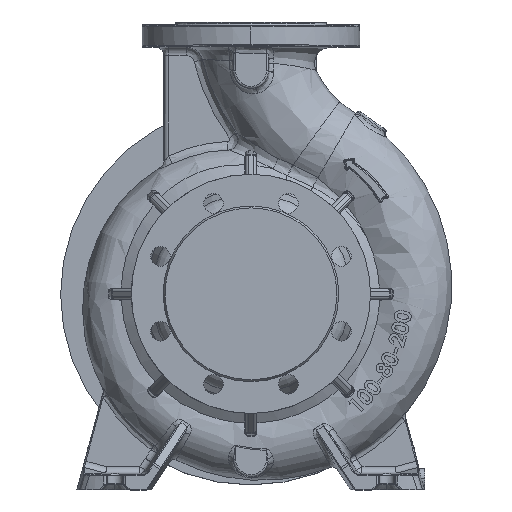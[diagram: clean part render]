
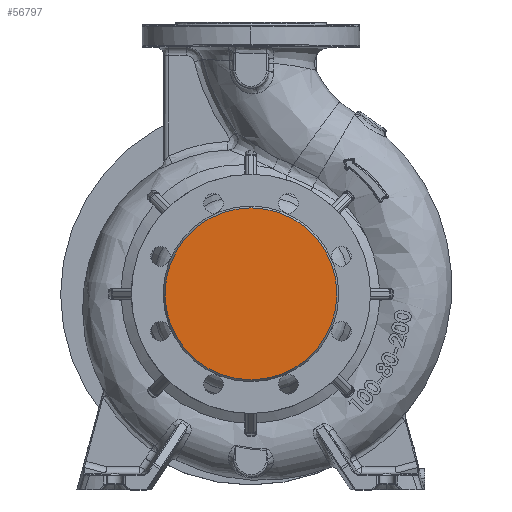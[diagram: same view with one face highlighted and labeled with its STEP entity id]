
A CAD part, top view. The second image highlights one B-rep face of the part: STEP entity #56797.
In plain terms, the highlighted planar face has unit normal (0, 0, 1).
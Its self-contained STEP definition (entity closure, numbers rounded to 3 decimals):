
#4521 = AXIS2_PLACEMENT_3D ( 'NONE', #106833, #72144, #106077 ) ;
#4668 = CARTESIAN_POINT ( 'NONE',  ( 79., 0., 125. ) ) ;
#10118 = DIRECTION ( 'NONE',  ( 0., 0., -1. ) ) ;
#10796 = DIRECTION ( 'NONE',  ( -1., 0., 0. ) ) ;
#20364 = CIRCLE ( 'NONE', #107687, 79. ) ;
#23458 = EDGE_LOOP ( 'NONE', ( #74007, #46989 ) ) ;
#27886 = AXIS2_PLACEMENT_3D ( 'NONE', #107069, #71596, #10796 ) ;
#28030 = CARTESIAN_POINT ( 'NONE',  ( 0., 0., 125. ) ) ;
#33803 = FACE_OUTER_BOUND ( 'NONE', #23458, .T. ) ;
#40286 = EDGE_CURVE ( 'NONE', #63747, #61047, #99404, .T. ) ;
#46989 = ORIENTED_EDGE ( 'NONE', *, *, #83875, .F. ) ;
#56797 = ADVANCED_FACE ( 'NONE', ( #33803 ), #72526, .F. ) ;
#61047 = VERTEX_POINT ( 'NONE', #4668 ) ;
#63747 = VERTEX_POINT ( 'NONE', #76156 ) ;
#71596 = DIRECTION ( 'NONE',  ( 0., 0., -1. ) ) ;
#72144 = DIRECTION ( 'NONE',  ( 0., 0., -1. ) ) ;
#72526 = PLANE ( 'NONE',  #4521 ) ;
#74007 = ORIENTED_EDGE ( 'NONE', *, *, #40286, .F. ) ;
#76156 = CARTESIAN_POINT ( 'NONE',  ( -79., 0., 125. ) ) ;
#83875 = EDGE_CURVE ( 'NONE', #61047, #63747, #20364, .T. ) ;
#96885 = DIRECTION ( 'NONE',  ( -1., 0., 0. ) ) ;
#99404 = CIRCLE ( 'NONE', #27886, 79. ) ;
#106077 = DIRECTION ( 'NONE',  ( -1., 0., 0. ) ) ;
#106833 = CARTESIAN_POINT ( 'NONE',  ( 0., 0., 125. ) ) ;
#107069 = CARTESIAN_POINT ( 'NONE',  ( 0., 0., 125. ) ) ;
#107687 = AXIS2_PLACEMENT_3D ( 'NONE', #28030, #10118, #96885 ) ;
